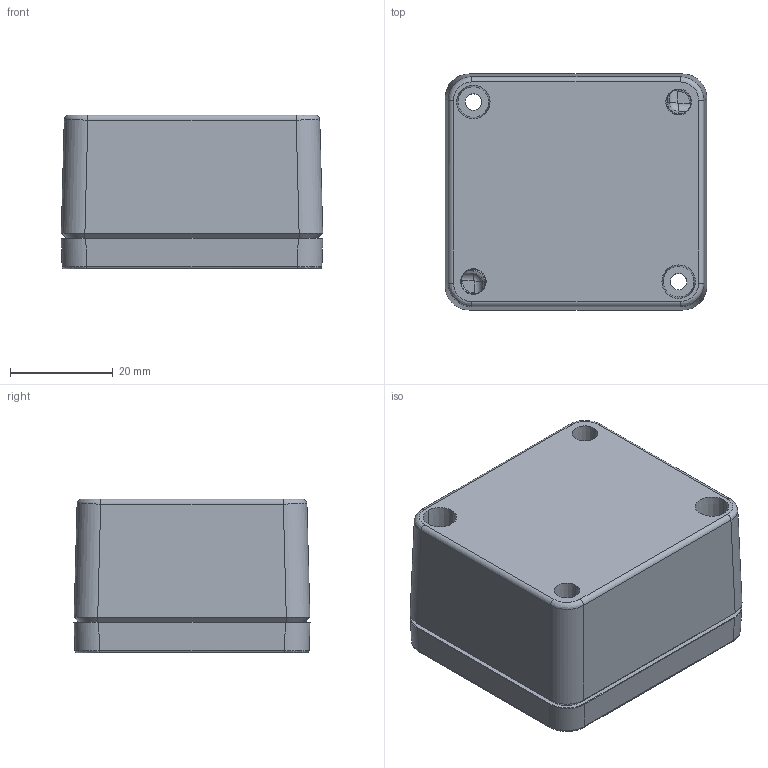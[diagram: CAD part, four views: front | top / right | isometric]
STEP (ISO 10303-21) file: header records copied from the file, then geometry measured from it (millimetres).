
FILE_DESCRIPTION (( 'STEP AP203' ), '1' );
FILE_NAME ('ALU ASSY 504530.STEP', '2024-08-27T06:58:37', ( '' ), ( '' ), 'SwSTEP 2.0', 'SolidWorks 2018', '' );
FILE_SCHEMA (( 'CONFIG_CONTROL_DESIGN' ));
Length unit declared in the file: millimetre
Products named in the file (3): ALU BASE 504530; ALU LID 504530; ALU ASSY 504530
Assembly tree (2 placements, depth 2):
  ALU ASSY 504530
    ALU BASE 504530
    ALU LID 504530
Bounding box: 50.99 x 45.99 x 30 mm (x, y, z)
Volume: 26652.8 mm3; surface area: 21156.4 mm2
Topology: 2 solids, 2 shells, 435 faces, 1070 edges, 633 vertices
Faces by surface type: cylinder 163, plane 121, bspline 113, cone 38
Entity records: 23091 total; most frequent: CARTESIAN_POINT 13982, ORIENTED_EDGE 2084, DIRECTION 1373, EDGE_CURVE 1042, VERTEX_POINT 633, VECTOR 483, LINE 483, EDGE_LOOP 469
